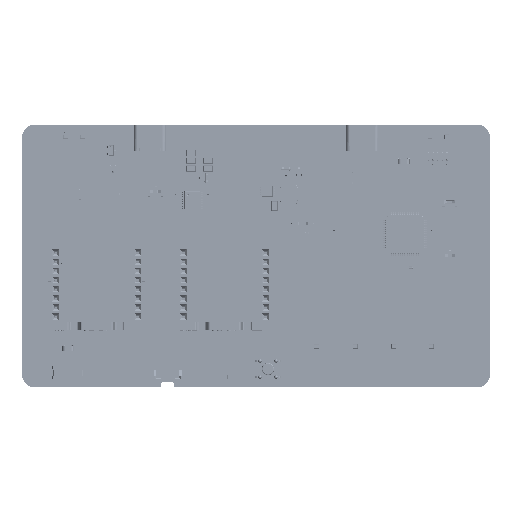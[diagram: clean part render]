
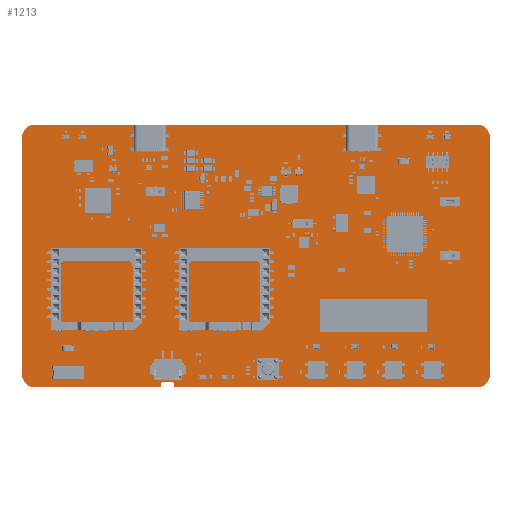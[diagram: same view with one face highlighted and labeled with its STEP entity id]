
A CAD part, top view. The second image highlights one B-rep face of the part: STEP entity #1213.
In plain terms, the highlighted planar face has unit normal (0, 0, 1).
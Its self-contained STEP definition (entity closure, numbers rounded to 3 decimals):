
#684 = VERTEX_POINT('',#685);
#685 = CARTESIAN_POINT('',(-0.698,-7.5,1.65));
#691 = EDGE_CURVE('',#684,#692,#694,.T.);
#692 = VERTEX_POINT('',#693);
#693 = CARTESIAN_POINT('',(33.965,-7.5,1.65));
#694 = LINE('',#695,#696);
#695 = CARTESIAN_POINT('',(-0.698,-7.5,1.65));
#696 = VECTOR('',#697,1.);
#697 = DIRECTION('',(1.,0.,0.));
#722 = EDGE_CURVE('',#692,#723,#725,.T.);
#723 = VERTEX_POINT('',#724);
#724 = CARTESIAN_POINT('',(34.473,-6.992,1.65));
#725 = CIRCLE('',#726,0.507);
#726 = AXIS2_PLACEMENT_3D('',#727,#728,#729);
#727 = CARTESIAN_POINT('',(33.966,-6.993,1.65));
#728 = DIRECTION('',(0.,0.,1.));
#729 = DIRECTION('',(-0.002,-1.,0.));
#755 = EDGE_CURVE('',#723,#756,#758,.T.);
#756 = VERTEX_POINT('',#757);
#757 = CARTESIAN_POINT('',(34.473,-6.484,1.65));
#758 = LINE('',#759,#760);
#759 = CARTESIAN_POINT('',(34.473,-6.992,1.65));
#760 = VECTOR('',#761,1.);
#761 = DIRECTION('',(0.,1.,0.));
#786 = EDGE_CURVE('',#756,#787,#789,.T.);
#787 = VERTEX_POINT('',#788);
#788 = CARTESIAN_POINT('',(34.981,-5.976,1.65));
#789 = CIRCLE('',#790,0.509);
#790 = AXIS2_PLACEMENT_3D('',#791,#792,#793);
#791 = CARTESIAN_POINT('',(34.982,-6.485,1.65));
#792 = DIRECTION('',(0.,0.,-1.));
#793 = DIRECTION('',(-1.,0.001,0.));
#819 = EDGE_CURVE('',#787,#820,#822,.T.);
#820 = VERTEX_POINT('',#821);
#821 = CARTESIAN_POINT('',(37.471,-5.976,1.65));
#822 = LINE('',#823,#824);
#823 = CARTESIAN_POINT('',(34.981,-5.976,1.65));
#824 = VECTOR('',#825,1.);
#825 = DIRECTION('',(1.,0.,0.));
#850 = EDGE_CURVE('',#820,#851,#853,.T.);
#851 = VERTEX_POINT('',#852);
#852 = CARTESIAN_POINT('',(37.979,-6.484,1.65));
#853 = CIRCLE('',#854,0.509);
#854 = AXIS2_PLACEMENT_3D('',#855,#856,#857);
#855 = CARTESIAN_POINT('',(37.47,-6.485,1.65));
#856 = DIRECTION('',(0.,0.,-1.));
#857 = DIRECTION('',(0.001,1.,0.));
#883 = EDGE_CURVE('',#851,#884,#886,.T.);
#884 = VERTEX_POINT('',#885);
#885 = CARTESIAN_POINT('',(37.979,-6.992,1.65));
#886 = LINE('',#887,#888);
#887 = CARTESIAN_POINT('',(37.979,-6.484,1.65));
#888 = VECTOR('',#889,1.);
#889 = DIRECTION('',(0.,-1.,0.));
#914 = EDGE_CURVE('',#884,#915,#917,.T.);
#915 = VERTEX_POINT('',#916);
#916 = CARTESIAN_POINT('',(38.487,-7.5,1.65));
#917 = CIRCLE('',#918,0.507);
#918 = AXIS2_PLACEMENT_3D('',#919,#920,#921);
#919 = CARTESIAN_POINT('',(38.486,-6.993,1.65));
#920 = DIRECTION('',(0.,0.,1.));
#921 = DIRECTION('',(-1.,0.002,0.));
#947 = EDGE_CURVE('',#915,#948,#950,.T.);
#948 = VERTEX_POINT('',#949);
#949 = CARTESIAN_POINT('',(122.096,-7.501,1.65));
#950 = LINE('',#951,#952);
#951 = CARTESIAN_POINT('',(38.487,-7.5,1.65));
#952 = VECTOR('',#953,1.);
#953 = DIRECTION('',(1.,0.,0.));
#978 = EDGE_CURVE('',#948,#979,#981,.T.);
#979 = VERTEX_POINT('',#980);
#980 = CARTESIAN_POINT('',(125.763,-3.96,1.65));
#981 = CIRCLE('',#982,3.65);
#982 = AXIS2_PLACEMENT_3D('',#983,#984,#985);
#983 = CARTESIAN_POINT('',(122.115,-3.851,1.65));
#984 = DIRECTION('',(0.,0.,1.));
#985 = DIRECTION('',(-0.005,-1.,0.));
#1011 = EDGE_CURVE('',#979,#1012,#1014,.T.);
#1012 = VERTEX_POINT('',#1013);
#1013 = CARTESIAN_POINT('',(125.763,61.834,1.65));
#1014 = LINE('',#1015,#1016);
#1015 = CARTESIAN_POINT('',(125.763,-3.96,1.65));
#1016 = VECTOR('',#1017,1.);
#1017 = DIRECTION('',(0.,1.,0.));
#1042 = EDGE_CURVE('',#1012,#1043,#1045,.T.);
#1043 = VERTEX_POINT('',#1044);
#1044 = CARTESIAN_POINT('',(122.222,65.5,1.65));
#1045 = CIRCLE('',#1046,3.648);
#1046 = AXIS2_PLACEMENT_3D('',#1047,#1048,#1049);
#1047 = CARTESIAN_POINT('',(122.115,61.854,1.65));
#1048 = DIRECTION('',(0.,0.,1.));
#1049 = DIRECTION('',(1.,-0.005,0.));
#1075 = EDGE_CURVE('',#1043,#1076,#1078,.T.);
#1076 = VERTEX_POINT('',#1077);
#1077 = CARTESIAN_POINT('',(-0.571,65.494,1.65));
#1078 = LINE('',#1079,#1080);
#1079 = CARTESIAN_POINT('',(122.222,65.5,1.65));
#1080 = VECTOR('',#1081,1.);
#1081 = DIRECTION('',(-1.,0.,0.));
#1106 = EDGE_CURVE('',#1076,#1107,#1109,.T.);
#1107 = VERTEX_POINT('',#1108);
#1108 = CARTESIAN_POINT('',(-4.237,61.953,1.65));
#1109 = CIRCLE('',#1110,3.648);
#1110 = AXIS2_PLACEMENT_3D('',#1111,#1112,#1113);
#1111 = CARTESIAN_POINT('',(-0.591,61.846,1.65));
#1112 = DIRECTION('',(0.,0.,1.));
#1113 = DIRECTION('',(0.005,1.,-0.));
#1139 = EDGE_CURVE('',#1107,#1140,#1142,.T.);
#1140 = VERTEX_POINT('',#1141);
#1141 = CARTESIAN_POINT('',(-4.239,-3.833,1.65));
#1142 = LINE('',#1143,#1144);
#1143 = CARTESIAN_POINT('',(-4.237,61.953,1.65));
#1144 = VECTOR('',#1145,1.);
#1145 = DIRECTION('',(0.,-1.,0.));
#1170 = EDGE_CURVE('',#1140,#684,#1171,.T.);
#1171 = CIRCLE('',#1172,3.648);
#1172 = AXIS2_PLACEMENT_3D('',#1173,#1174,#1175);
#1173 = CARTESIAN_POINT('',(-0.591,-3.854,1.65));
#1174 = DIRECTION('',(0.,0.,1.));
#1175 = DIRECTION('',(-1.,0.006,0.));
#1213 = ADVANCED_FACE('',(#1214),#1232,.T.);
#1214 = FACE_BOUND('',#1215,.T.);
#1215 = EDGE_LOOP('',(#1216,#1217,#1218,#1219,#1220,#1221,#1222,#1223,
    #1224,#1225,#1226,#1227,#1228,#1229,#1230,#1231));
#1216 = ORIENTED_EDGE('',*,*,#691,.T.);
#1217 = ORIENTED_EDGE('',*,*,#722,.T.);
#1218 = ORIENTED_EDGE('',*,*,#755,.T.);
#1219 = ORIENTED_EDGE('',*,*,#786,.T.);
#1220 = ORIENTED_EDGE('',*,*,#819,.T.);
#1221 = ORIENTED_EDGE('',*,*,#850,.T.);
#1222 = ORIENTED_EDGE('',*,*,#883,.T.);
#1223 = ORIENTED_EDGE('',*,*,#914,.T.);
#1224 = ORIENTED_EDGE('',*,*,#947,.T.);
#1225 = ORIENTED_EDGE('',*,*,#978,.T.);
#1226 = ORIENTED_EDGE('',*,*,#1011,.T.);
#1227 = ORIENTED_EDGE('',*,*,#1042,.T.);
#1228 = ORIENTED_EDGE('',*,*,#1075,.T.);
#1229 = ORIENTED_EDGE('',*,*,#1106,.T.);
#1230 = ORIENTED_EDGE('',*,*,#1139,.T.);
#1231 = ORIENTED_EDGE('',*,*,#1170,.T.);
#1232 = PLANE('',#1233);
#1233 = AXIS2_PLACEMENT_3D('',#1234,#1235,#1236);
#1234 = CARTESIAN_POINT('',(60.633,28.821,1.65));
#1235 = DIRECTION('',(0.,0.,1.));
#1236 = DIRECTION('',(1.,0.,-0.));
